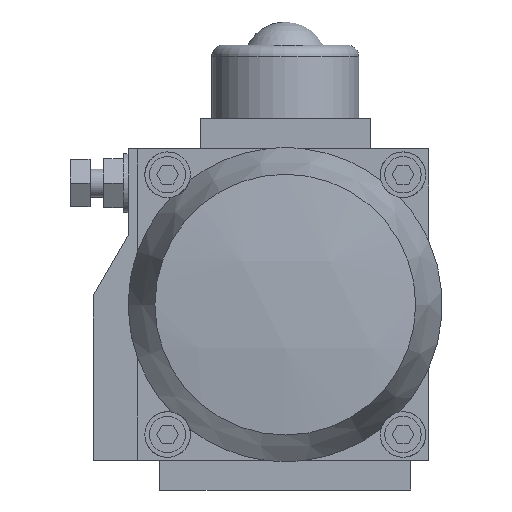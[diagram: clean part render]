
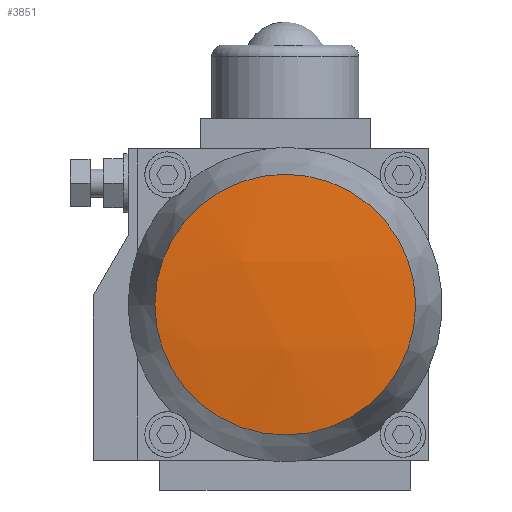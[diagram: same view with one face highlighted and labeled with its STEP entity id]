
A CAD part, front view. The second image highlights one B-rep face of the part: STEP entity #3851.
In plain terms, the highlighted spherical face has radius 245.765 mm.
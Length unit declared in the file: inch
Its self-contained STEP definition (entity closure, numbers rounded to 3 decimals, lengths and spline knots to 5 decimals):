
#3835=CARTESIAN_POINT('',(2.045,5.41578,1.6575));
#3836=DIRECTION('',(0.0,0.0,1.0));
#3837=DIRECTION('',(1.0,0.0,0.0));
#3838=AXIS2_PLACEMENT_3D('',#3835,#3836,#3837);
#3839=SPHERICAL_SURFACE('',#3838,9.67578);
#3840=CARTESIAN_POINT('',(0.6575,-4.16,1.6575));
#3841=VERTEX_POINT('',#3840);
#3842=CARTESIAN_POINT('',(2.045,-4.16,1.6575));
#3843=DIRECTION('',(0.0,1.0,0.0));
#3844=DIRECTION('',(-1.0,0.0,0.));
#3845=AXIS2_PLACEMENT_3D('',#3842,#3843,#3844);
#3846=CIRCLE('',#3845,1.3875);
#3847=EDGE_CURVE('',#3841,#3841,#3846,.T.);
#3848=ORIENTED_EDGE('',*,*,#3847,.F.);
#3849=EDGE_LOOP('',(#3848));
#3850=FACE_OUTER_BOUND('',#3849,.T.);
#3851=ADVANCED_FACE('',(#3850),#3839,.T.);
